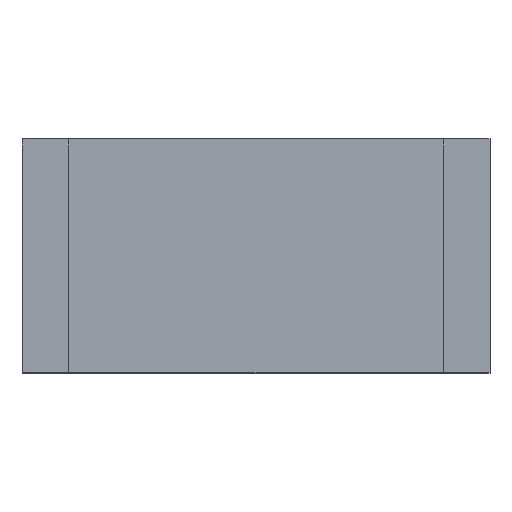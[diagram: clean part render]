
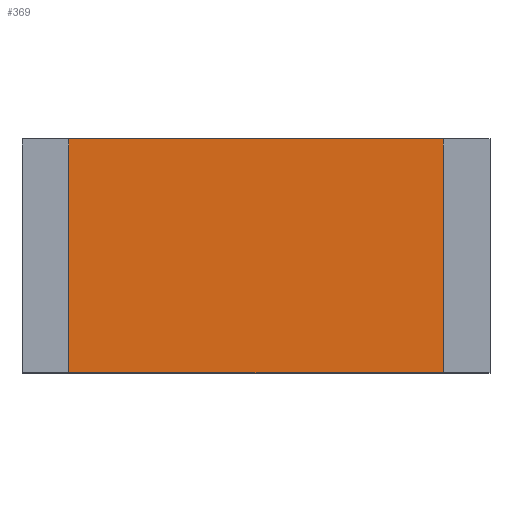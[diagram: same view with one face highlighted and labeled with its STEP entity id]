
A CAD part, top view. The second image highlights one B-rep face of the part: STEP entity #369.
In plain terms, the highlighted planar face has unit normal (0, 0, 1).
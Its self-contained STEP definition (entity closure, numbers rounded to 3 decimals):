
#369=ADVANCED_FACE('',(#766),#768,.F.);
#766=FACE_BOUND('',#767,.T.);
#767=EDGE_LOOP('',(#1050,#1051,#1052,#1053));
#768=PLANE('',#769);
#769=AXIS2_PLACEMENT_3D('',#770,#771,#772);
#770=CARTESIAN_POINT('',(0.,0.,0.6));
#771=DIRECTION('',(0.,0.,-1.));
#772=DIRECTION('',(1.,0.,0.));
#1050=ORIENTED_EDGE('',*,*,#1226,.F.);
#1051=ORIENTED_EDGE('',*,*,#1223,.F.);
#1052=ORIENTED_EDGE('',*,*,#1220,.F.);
#1053=ORIENTED_EDGE('',*,*,#1216,.F.);
#1216=EDGE_CURVE('',#1379,#1380,#1381,.T.);
#1220=EDGE_CURVE('',#1380,#1387,#1388,.T.);
#1223=EDGE_CURVE('',#1387,#1392,#1393,.T.);
#1226=EDGE_CURVE('',#1392,#1379,#1397,.T.);
#1379=VERTEX_POINT('',#1704);
#1380=VERTEX_POINT('',#1705);
#1381=LINE('',#1706,#1707);
#1387=VERTEX_POINT('',#1720);
#1388=LINE('',#1721,#1722);
#1392=VERTEX_POINT('',#1731);
#1393=LINE('',#1732,#1733);
#1397=LINE('',#1742,#1743);
#1704=CARTESIAN_POINT('',(4.,-2.5,0.6));
#1705=CARTESIAN_POINT('',(-4.,-2.5,0.6));
#1706=CARTESIAN_POINT('',(4.,-2.5,0.6));
#1707=VECTOR('',#1708,1.);
#1708=DIRECTION('',(-1.,0.,0.));
#1720=CARTESIAN_POINT('',(-4.,2.5,0.6));
#1721=CARTESIAN_POINT('',(-4.,-2.5,0.6));
#1722=VECTOR('',#1723,1.);
#1723=DIRECTION('',(0.,1.,0.));
#1731=CARTESIAN_POINT('',(4.,2.5,0.6));
#1732=CARTESIAN_POINT('',(-4.,2.5,0.6));
#1733=VECTOR('',#1734,1.);
#1734=DIRECTION('',(1.,0.,0.));
#1742=CARTESIAN_POINT('',(4.,2.5,0.6));
#1743=VECTOR('',#1744,1.);
#1744=DIRECTION('',(0.,-1.,0.));
